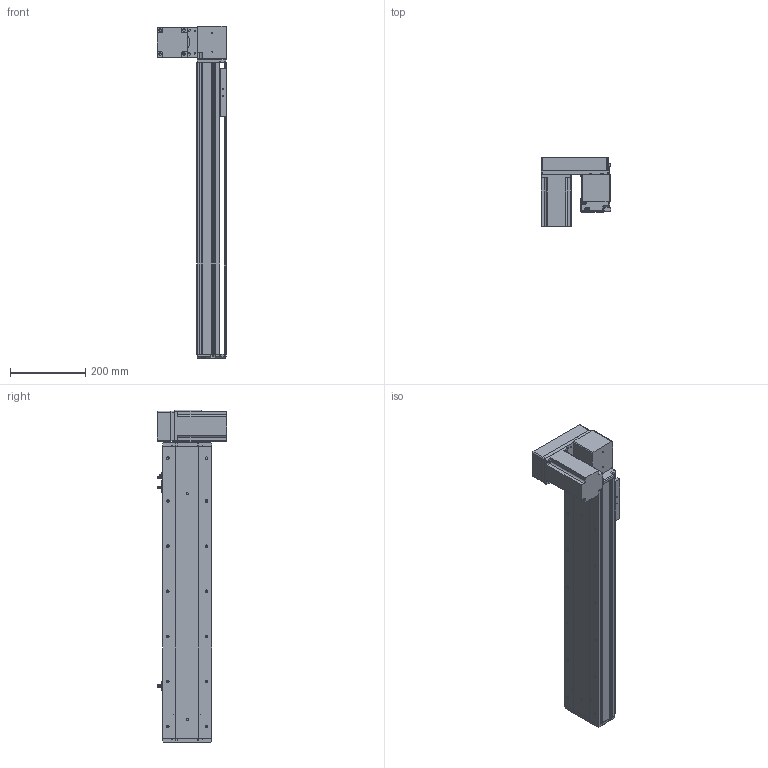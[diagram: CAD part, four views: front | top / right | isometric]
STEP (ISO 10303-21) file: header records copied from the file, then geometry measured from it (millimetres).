
FILE_DESCRIPTION (( 'STEP AP214' ), '1' );
FILE_NAME ('KSD130B-S550-MRD-CM.STEP', '2019-11-15T08:25:39', ( '微软用户' ), ( '微软中国' ), 'SwSTEP 2.0', 'SolidWorks 2014', '' );
FILE_SCHEMA (( 'AUTOMOTIVE_DESIGN' ));
Length unit declared in the file: millimetre
Products named in the file (12): 130宽模组保护罩上下左右折-同步带; 台达ECMA－C20807AS伺服电机; 130宽模组马达安装板连板上下折丝杆同步带; 覜茼え100遵圉猾敕; U倰嫖萇EEㄜSX672; 130宽盖板半封闭同步带-550行程; 130宽马达安装板同步带右-改镜向_默认<按加工>; 130宽马达安装板同步带半封闭; 130宽同步带安装座半封闭; 130宽端盖同步带半封闭; 130宽底板半封闭同步带-550行程; KSD130B-S550-MRD-CM
Assembly tree (13 placements, depth 2):
  KSD130B-S550-MRD-CM
    130宽底板半封闭同步带-550行程
    130宽端盖同步带半封闭
    130宽同步带安装座半封闭
    130宽马达安装板同步带半封闭
    130宽马达安装板同步带右-改镜向_默认<按加工>
    130宽盖板半封闭同步带-550行程
    U倰嫖萇EEㄜSX672  x3
    覜茼え100遵圉猾敕
    130宽模组马达安装板连板上下折丝杆同步带
    台达ECMA－C20807AS伺服电机
    130宽模组保护罩上下左右折-同步带
Bounding box: 186 x 184.8 x 883 mm (x, y, z)
Volume: 3751786.7 mm3; surface area: 984143.1 mm2
Topology: 14 solids, 14 shells, 1427 faces, 4025 edges, 2581 vertices
Faces by surface type: cylinder 670, plane 610, cone 147
Entity records: 45827 total; most frequent: CARTESIAN_POINT 8242, DIRECTION 7031, ORIENTED_EDGE 6742, EDGE_CURVE 3371, AXIS2_PLACEMENT_3D 2550, VERTEX_POINT 2205, VECTOR 1931, LINE 1931
